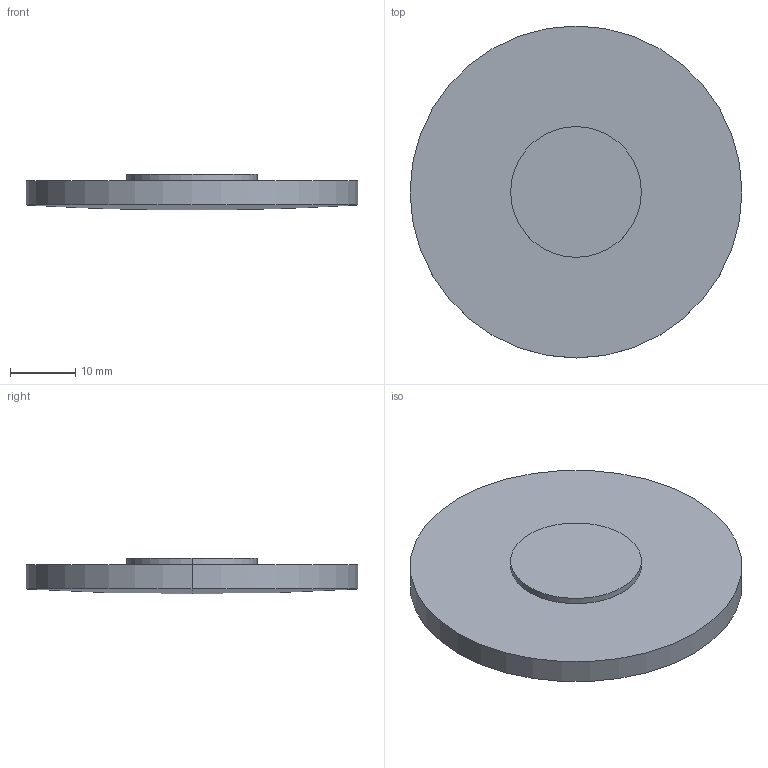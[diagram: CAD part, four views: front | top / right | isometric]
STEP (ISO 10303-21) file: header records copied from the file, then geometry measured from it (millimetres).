
FILE_DESCRIPTION(('STEP AP214'),'1');
FILE_NAME('LLR-51-1M.STEP','2020-03-09T17:42:01',(' '),(' '),'Spatial InterOp 3D',' ',' ');
FILE_SCHEMA(('AUTOMOTIVE_DESIGN { 1 0 10303 214 1 1 1 1 }'));
Length unit declared in the file: millimetre
Products named in the file (1): 1
Bounding box: 50.8 x 50.8 x 5.5 mm (x, y, z)
Volume: 8663.6 mm3; surface area: 5343.3 mm2
Topology: 2 solids, 2 shells, 9 faces, 16 edges, 9 vertices
Faces by surface type: cylinder 4, plane 3, sphere 2
Entity records: 229 total; most frequent: DIRECTION 46, CARTESIAN_POINT 34, ORIENTED_EDGE 28, AXIS2_PLACEMENT_3D 21, EDGE_CURVE 14, CIRCLE 10, ADVANCED_FACE 9, FACE_OUTER_BOUND 9
